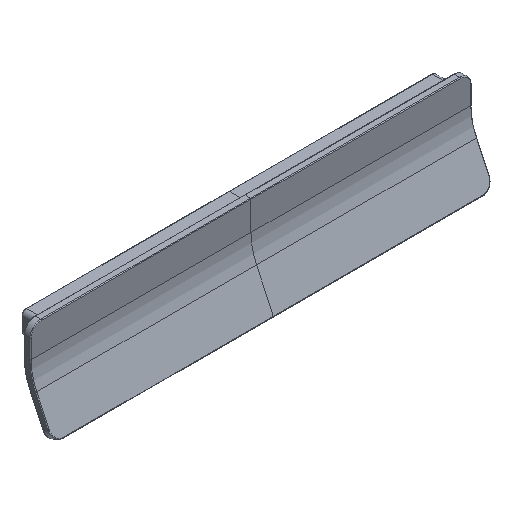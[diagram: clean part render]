
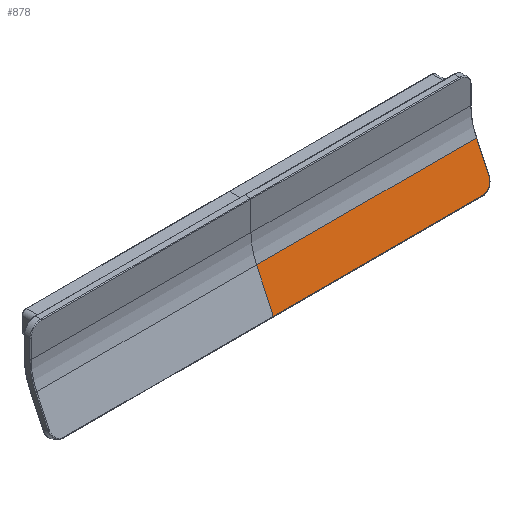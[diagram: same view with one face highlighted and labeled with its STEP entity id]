
A CAD part, isometric view. The second image highlights one B-rep face of the part: STEP entity #878.
In plain terms, the highlighted planar face has unit normal (0, -0.906, 0.423).
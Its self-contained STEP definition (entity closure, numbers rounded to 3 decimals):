
#18 = CARTESIAN_POINT ( 'NONE',  ( -235.3, -12.53, 190.24 ) ) ;
#21 = DIRECTION ( 'NONE',  ( 0., -0.906, 0.423 ) ) ;
#108 = B_SPLINE_CURVE_WITH_KNOTS ( 'NONE', 1,
 ( #1379, #2159 ),
 .UNSPECIFIED., .F., .F.,
 ( 2, 2 ),
 ( 0., 95. ),
 .UNSPECIFIED. ) ;
#196 = DIRECTION ( 'NONE',  ( -1., 0., 0. ) ) ;
#201 = ORIENTED_EDGE ( 'NONE', *, *, #1677, .F. ) ;
#343 = CARTESIAN_POINT ( 'NONE',  ( -240., -20.158, 173.882 ) ) ;
#350 = VERTEX_POINT ( 'NONE', #1141 ) ;
#470 = VERTEX_POINT ( 'NONE', #18 ) ;
#528 = ORIENTED_EDGE ( 'NONE', *, *, #1617, .F. ) ;
#580 = EDGE_LOOP ( 'NONE', ( #528, #1000, #1500, #2143, #201 ) ) ;
#586 = PLANE ( 'NONE',  #661 ) ;
#661 = AXIS2_PLACEMENT_3D ( 'NONE', #1594, #21, #196 ) ;
#850 = CARTESIAN_POINT ( 'NONE',  ( -240., -20.158, 173.882 ) ) ;
#878 = ADVANCED_FACE ( 'NONE', ( #973 ), #586, .T. ) ;
#973 = FACE_OUTER_BOUND ( 'NONE', #580, .T. ) ;
#1000 = ORIENTED_EDGE ( 'NONE', *, *, #1722, .F. ) ;
#1028 = CARTESIAN_POINT ( 'NONE',  ( -235.3, -18.171, 178.142 ) ) ;
#1044 = B_SPLINE_CURVE_WITH_KNOTS ( 'NONE', 1,
 ( #1258, #2036 ),
 .UNSPECIFIED., .F., .F.,
 ( 2, 2 ),
 ( -18.049, 0. ),
 .UNSPECIFIED. ) ;
#1058 =( BOUNDED_CURVE ( )  B_SPLINE_CURVE ( 2, ( #1666, #1855, #343 ),
 .UNSPECIFIED., .F., .F. ) 
 B_SPLINE_CURVE_WITH_KNOTS ( ( 3, 3 ),
 ( -7.383, 0. ),
 .UNSPECIFIED. ) 
 CURVE ( )  GEOMETRIC_REPRESENTATION_ITEM ( )  RATIONAL_B_SPLINE_CURVE ( ( 1., 0.707, 1. ) ) 
 REPRESENTATION_ITEM ( '' )  );
#1059 = VERTEX_POINT ( 'NONE', #850 ) ;
#1086 = VERTEX_POINT ( 'NONE', #1267 ) ;
#1141 = CARTESIAN_POINT ( 'NONE',  ( -335., -12.53, 190.24 ) ) ;
#1198 = VERTEX_POINT ( 'NONE', #1725 ) ;
#1258 = CARTESIAN_POINT ( 'NONE',  ( -335., -20.158, 173.882 ) ) ;
#1267 = CARTESIAN_POINT ( 'NONE',  ( -335., -20.158, 173.882 ) ) ;
#1311 = CARTESIAN_POINT ( 'NONE',  ( -335., -12.53, 190.24 ) ) ;
#1379 = CARTESIAN_POINT ( 'NONE',  ( -240., -20.158, 173.882 ) ) ;
#1391 = B_SPLINE_CURVE_WITH_KNOTS ( 'NONE', 1,
 ( #2224, #1028 ),
 .UNSPECIFIED., .F., .F.,
 ( 2, 2 ),
 ( 0., 13.349 ),
 .UNSPECIFIED. ) ;
#1500 = ORIENTED_EDGE ( 'NONE', *, *, #1689, .F. ) ;
#1594 = CARTESIAN_POINT ( 'NONE',  ( -212.348, -11.76, 191.89 ) ) ;
#1617 = EDGE_CURVE ( 'NONE', #1059, #1086, #108, .T. ) ;
#1666 = CARTESIAN_POINT ( 'NONE',  ( -235.3, -18.171, 178.142 ) ) ;
#1677 = EDGE_CURVE ( 'NONE', #1086, #350, #1044, .T. ) ;
#1689 = EDGE_CURVE ( 'NONE', #470, #1198, #1391, .T. ) ;
#1719 = B_SPLINE_CURVE_WITH_KNOTS ( 'NONE', 1,
 ( #1311, #2251 ),
 .UNSPECIFIED., .F., .F.,
 ( 2, 2 ),
 ( -99.7, 0. ),
 .UNSPECIFIED. ) ;
#1722 = EDGE_CURVE ( 'NONE', #1198, #1059, #1058, .T. ) ;
#1725 = CARTESIAN_POINT ( 'NONE',  ( -235.3, -18.171, 178.142 ) ) ;
#1734 = EDGE_CURVE ( 'NONE', #350, #470, #1719, .T. ) ;
#1855 = CARTESIAN_POINT ( 'NONE',  ( -235.3, -20.158, 173.882 ) ) ;
#2036 = CARTESIAN_POINT ( 'NONE',  ( -335., -12.53, 190.24 ) ) ;
#2143 = ORIENTED_EDGE ( 'NONE', *, *, #1734, .F. ) ;
#2159 = CARTESIAN_POINT ( 'NONE',  ( -335., -20.158, 173.882 ) ) ;
#2224 = CARTESIAN_POINT ( 'NONE',  ( -235.3, -12.53, 190.24 ) ) ;
#2251 = CARTESIAN_POINT ( 'NONE',  ( -235.3, -12.53, 190.24 ) ) ;
